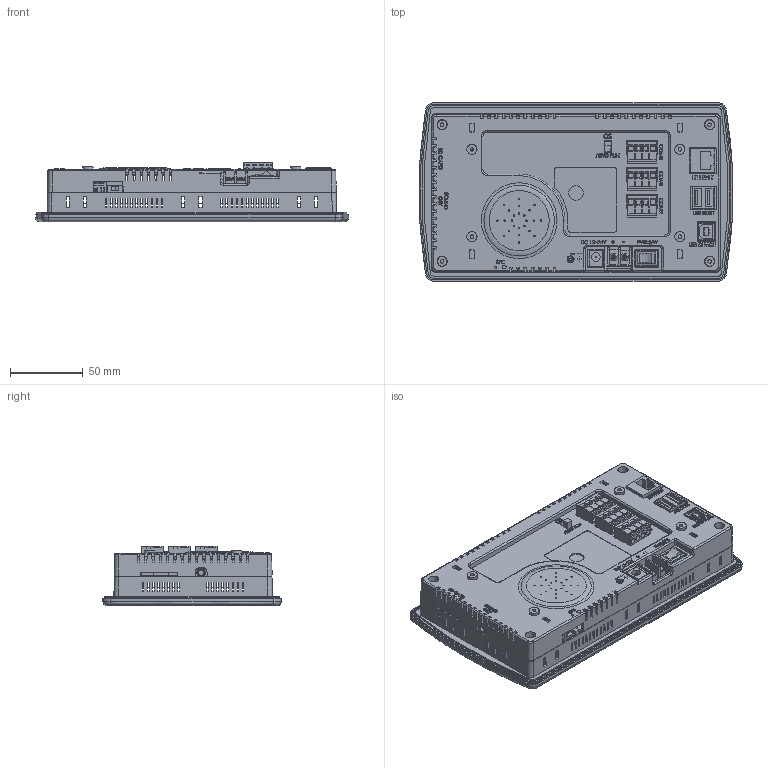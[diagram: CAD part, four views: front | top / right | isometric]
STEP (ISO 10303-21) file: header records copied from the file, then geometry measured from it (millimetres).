
FILE_DESCRIPTION (( 'STEP AP214' ), '1' );
FILE_NAME ('CWR-070WR_ASM_STEP.STEP', '2023-02-08T05:43:40', ( '' ), ( '' ), 'SwSTEP 2.0', 'SolidWorks 2020', '' );
FILE_SCHEMA (( 'AUTOMOTIVE_DESIGN' ));
Length unit declared in the file: millimetre
Products named in the file (1): CWR-070WR_ASM_STEP
Bounding box: 215.48 x 122.5 x 40.8 mm (x, y, z)
Surface area: 168781.5 mm2 (no closed solid volume)
Topology: 0 solids, 44 shells, 1869 faces, 7474 edges, 5378 vertices
Faces by surface type: plane 1377, bspline 251, cylinder 199, cone 25, torus 15, sphere 2
Full cylindrical faces by diameter (mm): 1 x25, 1.5 x1, 2.5 x5, 3.6 x1, 4 x8, 5.4 x1, 6 x1, 10 x1, 48 x1
Entity records: 116620 total; most frequent: CARTESIAN_POINT 38644, ORIENTED_EDGE 11590, DIRECTION 9753, EDGE_CURVE 7404, LINE 5703, VECTOR 5703, VERTEX_POINT 5366, EDGE_LOOP 2318
